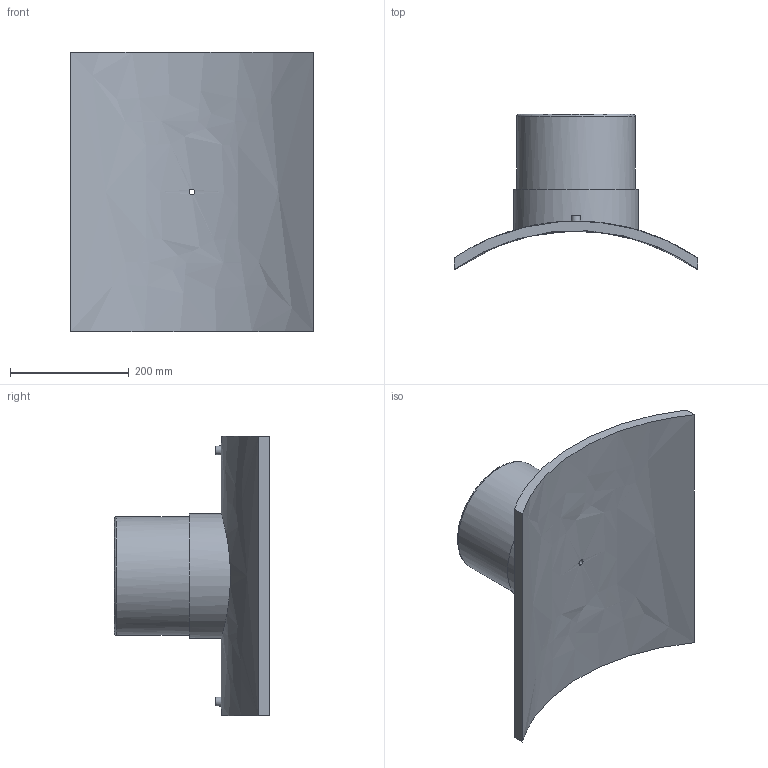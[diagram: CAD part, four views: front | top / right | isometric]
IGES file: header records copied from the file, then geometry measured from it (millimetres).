
Global section: file name: 495803710200T; native system: Autodesk Inventor 2019; preprocessor: unknown; author: KIM; date: 20240404.115441; units: millimetre
Bounding box: 410 x 261.17 x 470 mm (x, y, z)
Volume: 5581222.8 mm3; surface area: 661776.9 mm2
Topology: 1 solids, 1 shells, 29 faces, 60 edges, 43 vertices
Faces by surface type: bspline 29
